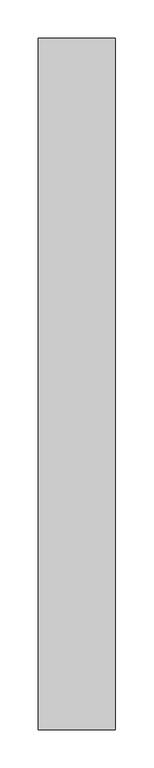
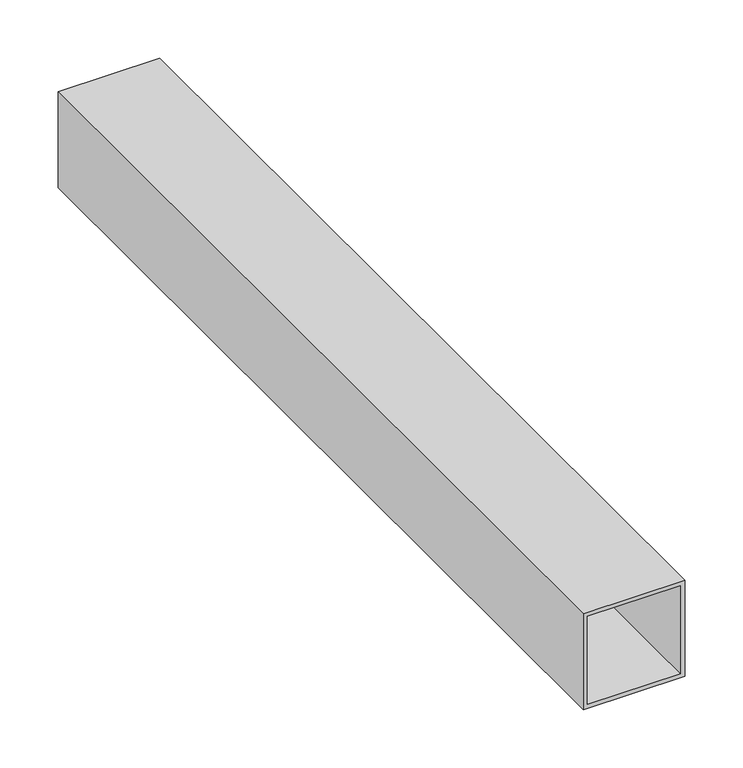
"""IFC4 building model written with IfcOpenShell, lengths in millimetres: proxy geometry, Tube métal épine - Façade Sud."""

import ifcopenshell
import ifcopenshell.guid

model = None  # the IFC model being written
_history = None  # IfcOwnerHistory: only IFC2X3 demands one
_inside = {}  # id of a spatial element -> (the spatial element, [elements in it])
_under = {}  # id of a project, library or spatial element -> (it, [spatial elements below it])
_declared = {}  # id of a project -> (the project, [libraries it declares])
_typed = {}  # id of a type object -> (the type object, [elements of that type])
_made_of = {}  # id of a material, layer set ... -> (it, [elements and type objects made of it])


def new_model(schema):
    """Start an empty IFC model of exactly this schema.

    Asked for "IFC4X3", IfcOpenShell would pick the latest addendum, in which some entities
    have other attributes; the version numbers below select the first issue.
    IFC2X3 requires an IfcOwnerHistory on every rooted entity: one is made here for all.
    """
    global model, _history
    if schema == "IFC4X3":
        model = ifcopenshell.file(schema_version=(4, 3, 0, 0))
    else:
        model = ifcopenshell.file(schema=schema)
    _inside.clear()
    _under.clear()
    _declared.clear()
    _typed.clear()
    _made_of.clear()
    _history = None
    if model.schema == "IFC2X3":
        org = make("IfcOrganization", Name="unknown")
        user = make(
            "IfcPersonAndOrganization",
            ThePerson=make("IfcPerson", FamilyName="unknown"),
            TheOrganization=org,
        )
        app = make(
            "IfcApplication",
            ApplicationDeveloper=org,
            Version="unknown",
            ApplicationFullName="unknown",
            ApplicationIdentifier="unknown",
        )
        _history = make(
            "IfcOwnerHistory",
            OwningUser=user,
            OwningApplication=app,
            ChangeAction="ADDED",
            CreationDate=0,
        )
    return model


def make(cls, **values):
    """One entity of the class cls with the attributes given. An attribute that is None is left unset."""
    return model.create_entity(
        cls, **{name: value for name, value in values.items() if value is not None}
    )


def rooted(cls, **values):
    """An entity with a GlobalId (a new one), such as an element, a storey or a relation."""
    return make(cls, GlobalId=ifcopenshell.guid.new(), OwnerHistory=_history, **values)


def si_unit(unit_type, name, prefix=None):
    """IfcSIUnit, for example si_unit("LENGTHUNIT", "METRE", prefix="MILLI")."""
    return make("IfcSIUnit", UnitType=unit_type, Prefix=prefix, Name=name)


def assignment(units):
    """IfcUnitAssignment: the units of a project."""
    return None if units is None else make("IfcUnitAssignment", Units=units)


def point(xyz):
    """IfcCartesianPoint."""
    return None if xyz is None else make("IfcCartesianPoint", Coordinates=xyz)


def direction(xyz):
    """IfcDirection."""
    return None if xyz is None else make("IfcDirection", DirectionRatios=xyz)


def frame(location, z_axis=None, x_axis=None):
    """IfcAxis2Placement3D, a coordinate frame: its origin and axes. An axis left out is left unset."""
    return make(
        "IfcAxis2Placement3D",
        Location=point(location),
        Axis=direction(z_axis),
        RefDirection=direction(x_axis),
    )


def origin():
    """The frame at (0, 0, 0) with its axes left unset."""
    return frame((0.0, 0.0, 0.0))


def place(relative_to, where):
    """IfcLocalPlacement: puts the frame where relative to a parent placement (None: the world)."""
    return make(
        "IfcLocalPlacement", PlacementRelTo=relative_to, RelativePlacement=where
    )


def context(
    kind, dimensions, precision=None, world=None, true_north=None, identifier=None
):
    """IfcGeometricRepresentationContext, for example the 3D "Model" context."""
    return make(
        "IfcGeometricRepresentationContext",
        ContextIdentifier=identifier,
        ContextType=kind,
        CoordinateSpaceDimension=dimensions,
        Precision=precision,
        WorldCoordinateSystem=world,
        TrueNorth=true_north,
    )


def project(units=None, contexts=None):
    """IfcProject with its units and contexts."""
    return rooted(
        "IfcProject",
        Name="project",
        RepresentationContexts=contexts,
        UnitsInContext=assignment(units),
    )


def spatial(cls, under=None, at=None, **own):
    """A site, building, storey or space (cls), placed at a placement, below another one or the project."""
    s = rooted(cls, ObjectPlacement=at, **own)
    if under is not None:
        _under.setdefault(under.id(), (under, []))[1].append(s)
    return s


def polyline(points):
    """IfcPolyline through the points."""
    return make("IfcPolyline", Points=[point(p) for p in points])


def outline(outer, holes=None, kind="AREA"):
    """IfcArbitraryClosedProfileDef: a profile drawn as a closed curve; with holes, ...WithVoids."""
    if holes is None:
        return make("IfcArbitraryClosedProfileDef", ProfileType=kind, OuterCurve=outer)
    return make(
        "IfcArbitraryProfileDefWithVoids",
        ProfileType=kind,
        OuterCurve=outer,
        InnerCurves=holes,
    )


def extrude(swept, where, along, depth):
    """IfcExtrudedAreaSolid: the profile swept, set in the frame where, extruded along a direction by depth."""
    return make(
        "IfcExtrudedAreaSolid",
        SweptArea=swept,
        Position=where,
        ExtrudedDirection=direction(along),
        Depth=depth,
    )


def shape(context_of_items, identifier, shape_type, items):
    """IfcShapeRepresentation: the items that make up one representation, for example the "Body"."""
    return make(
        "IfcShapeRepresentation",
        ContextOfItems=context_of_items,
        RepresentationIdentifier=identifier,
        RepresentationType=shape_type,
        Items=items,
    )


def source(mapping_origin, context_of_items, identifier, shape_type, items):
    """IfcRepresentationMap: a shape defined once, which mapped items show again and again."""
    return make(
        "IfcRepresentationMap",
        MappingOrigin=mapping_origin,
        MappedRepresentation=shape(context_of_items, identifier, shape_type, items),
    )


def transform(
    local_origin,
    x_axis=None,
    y_axis=None,
    z_axis=None,
    scale=None,
    scale2=None,
    scale3=None,
    uniform=True,
):
    """IfcCartesianTransformationOperator3D, or its non-uniform kind. x_axis, y_axis, z_axis: its Axis1, 2, 3."""
    if uniform:
        return make(
            "IfcCartesianTransformationOperator3D",
            Axis1=direction(x_axis),
            Axis2=direction(y_axis),
            LocalOrigin=point(local_origin),
            Scale=scale,
            Axis3=direction(z_axis),
        )
    return make(
        "IfcCartesianTransformationOperator3DnonUniform",
        Axis1=direction(x_axis),
        Axis2=direction(y_axis),
        LocalOrigin=point(local_origin),
        Scale=scale,
        Axis3=direction(z_axis),
        Scale2=scale2,
        Scale3=scale3,
    )


def mapped(mapping_source, mapping_target):
    """IfcMappedItem: shows the shape of a source again, moved by a transform."""
    return make(
        "IfcMappedItem", MappingSource=mapping_source, MappingTarget=mapping_target
    )


def made_of(thing, what):
    """Note that an element or type object is made of a material, layer set ...; save() writes the relation."""
    if what is not None:
        _made_of.setdefault(what.id(), (what, []))[1].append(thing)
    return thing


def element(
    cls,
    number,
    at=None,
    inside=None,
    cuts=None,
    type_object=None,
    material=None,
    context=None,
    identifier="Body",
    shape_type=None,
    held_by="IfcProductDefinitionShape",
    body=None,
    shapes=None,
    **own,
):
    """One element of the class cls, such as IfcWall. Its Tag is "e" and its number.

    at: its placement. inside: the storey or other place that contains it. cuts: it is an
    opening in that element (IfcRelVoidsElement). A single representation is given by context,
    identifier, shape_type and body (its items); several are given by shapes. held_by: the class
    of the entity that holds the representations. save() writes the other relations.
    """
    e = rooted(cls, Tag="e%d" % number, ObjectPlacement=at, **own)
    if body is not None:
        shapes = [shape(context, identifier, shape_type, body)]
    if shapes is not None:
        e.Representation = make(held_by, Representations=shapes)
    if inside is not None:
        _inside.setdefault(inside.id(), (inside, []))[1].append(e)
    if cuts is not None:
        rooted(
            "IfcRelVoidsElement", RelatingBuildingElement=cuts, RelatedOpeningElement=e
        )
    if type_object is not None:
        _typed.setdefault(type_object.id(), (type_object, []))[1].append(e)
    return made_of(e, material)


def aggregate(whole, parts):
    """IfcRelAggregates: a whole, such as a stair, and the parts it consists of."""
    return rooted("IfcRelAggregates", RelatingObject=whole, RelatedObjects=parts)


def save(model, path):
    """Write the relations noted so far, then the file.

    IfcRelAggregates (storeys below a building ...), IfcRelContainedInSpatialStructure (elements
    in a storey), IfcRelDefinesByType, IfcRelAssociatesMaterial and IfcRelDeclares: one each for
    every whole, place, type object, material and project.
    """
    for whole, parts in _under.values():
        aggregate(whole, parts)
    for where, things in _inside.values():
        rooted(
            "IfcRelContainedInSpatialStructure",
            RelatedElements=things,
            RelatingStructure=where,
        )
    for kind, things in _typed.values():
        rooted("IfcRelDefinesByType", RelatedObjects=things, RelatingType=kind)
    for what, things in _made_of.values():
        rooted("IfcRelAssociatesMaterial", RelatedObjects=things, RelatingMaterial=what)
    for by, libraries in _declared.values():
        rooted("IfcRelDeclares", RelatingContext=by, RelatedDefinitions=libraries)
    model.write(path)


def generic_models_c3ed7b81(model_context):
    return source(origin(), model_context, "Body", "SweptSolid", [
        extrude(outline(polyline([(100.0, 31.123827), (100.0, -68.876173), (0.0, -68.876173), (0.0, 31.123827), (100.0, 31.123827)]), holes=[polyline([(4.0, -64.876173), (96.0, -64.876173), (96.0, 27.123827), (4.0, 27.123827), (4.0, -64.876173)])]), frame((0.0, 0.0, 0.0), z_axis=(0.0, 1.0, 0.0), x_axis=(0.0, 0.0, 1.0)), (0.0, 0.0, 1.0), 900.0),
    ])


if __name__ == "__main__":
    model = new_model("IFC4")
    model_context = context("Model", 3, world=origin())
    ifc_project = project(units=[si_unit("LENGTHUNIT", "METRE", prefix="MILLI")], contexts=[model_context])
    site = spatial("IfcSite", under=ifc_project)
    building = spatial("IfcBuilding", under=site)
    placement = place(None, origin())
    generic_models_shape = generic_models_c3ed7b81(model_context)
    element("IfcBuildingElementProxy", 1, Name="Tube métal épine - Façade Sud", ObjectType="Tube métal épine - Façade Sud", at=placement, inside=building, context=model_context, shape_type="MappedRepresentation", body=[
        mapped(generic_models_shape, transform((0.0, 0.0, 0.0), x_axis=(1.0, 0.0, 0.0), y_axis=(0.0, 1.0, 0.0), z_axis=(0.0, 0.0, 1.0))),
    ])
    save(model, "model.ifc")
